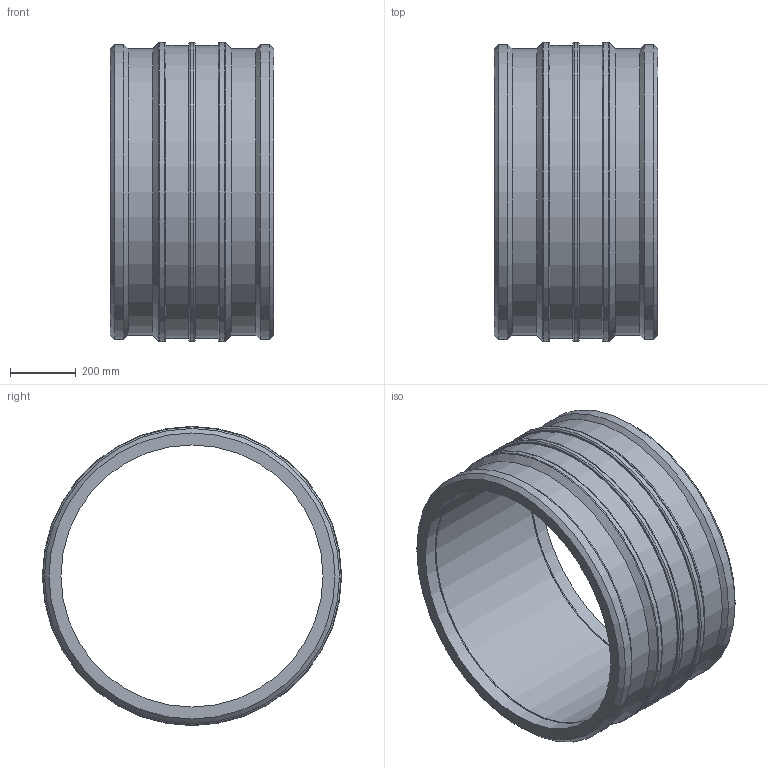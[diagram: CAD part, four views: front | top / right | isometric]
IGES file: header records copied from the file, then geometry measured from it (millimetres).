
Global section: file name: 460103800.ipt; native system: Autodesk Inventor 2015; preprocessor: unknown; author: KIM; date: 20190124.125945; units: millimetre
Bounding box: 500 x 913 x 913 mm (x, y, z)
Volume: 59719352.3 mm3; surface area: 3040611.8 mm2
Topology: 1 solids, 1 shells, 48 faces, 106 edges, 70 vertices
Faces by surface type: cylinder 15, plane 14, revolution 13, cone 6
Full cylindrical faces by diameter (mm): 4 x2, 873 x2, 894.74 x2, 900 x2, 913 x3
